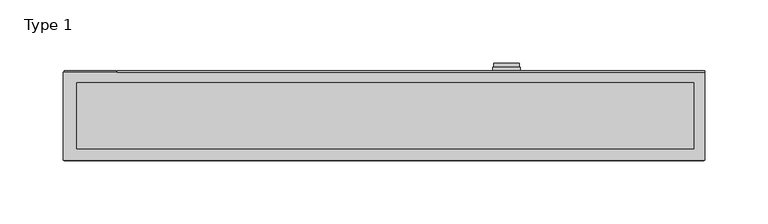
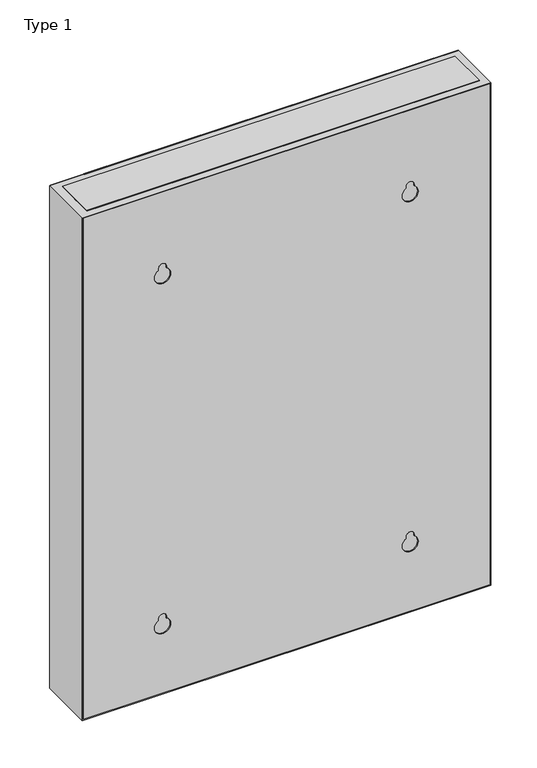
"""IFC4 building model written with IfcOpenShell, lengths in millimetres: proxy geometry, PDB-200 - 208V_OR_120V_Distribution_Panel_Wallmount_BIM_Model : Type 1."""

from ifc_helpers import new_model, si_unit, point, frame, frame_2d, origin, place, context, project, spatial, polyline, circle_curve, trimmed, segment, composite_curve, outline, extrude, source, transform, mapped, element, save


def type_1_044964e1(model_context):
    return source(origin(), model_context, "Body", "SweptSolid", [
        extrude(outline(polyline([(1661.8105, -253.0019074), (1003.7201708, -253.0019074), (1003.7201708, 253.0019074), (1661.8105, 253.0019074), (1661.8105, -253.0019074)]), holes=[composite_curve([segment(trimmed(circle_curve(frame_2d((1562.5846885, 154.050553)), 5.0), [point((1562.5846885, 149.050553))], [point((1562.5846885, 159.050553))], True, "CARTESIAN"), True, "CONTINUOUS"), segment(polyline([(1562.5846885, 159.050553), (1560.4927236, 159.050553)]), True, "CONTINUOUS"), segment(trimmed(circle_curve(frame_2d((1551.8324696, 154.050553)), 10.0), [point((1560.4927236, 159.050553))], [point((1560.4927236, 149.050553))], True, "CARTESIAN"), True, "CONTINUOUS"), segment(polyline([(1560.4927236, 149.050553), (1562.5846885, 149.050553)]), True, "CONTINUOUS")], self_intersect=False), composite_curve([segment(trimmed(circle_curve(frame_2d((1562.5846885, -153.949447)), 5.0), [point((1562.5846885, -158.949447))], [point((1562.5846885, -148.949447))], True, "CARTESIAN"), True, "CONTINUOUS"), segment(polyline([(1562.5846885, -148.949447), (1560.4927236, -148.949447)]), True, "CONTINUOUS"), segment(trimmed(circle_curve(frame_2d((1551.8324696, -153.949447)), 10.0), [point((1560.4927236, -148.949447))], [point((1560.4927236, -158.949447))], True, "CARTESIAN"), True, "CONTINUOUS"), segment(polyline([(1560.4927236, -158.949447), (1562.5846885, -158.949447)]), True, "CONTINUOUS")], self_intersect=False), composite_curve([segment(trimmed(circle_curve(frame_2d((1102.5846885, 154.050553)), 5.0), [point((1102.5846885, 149.050553))], [point((1102.5846885, 159.050553))], True, "CARTESIAN"), True, "CONTINUOUS"), segment(polyline([(1102.5846885, 159.050553), (1100.4927236, 159.050553)]), True, "CONTINUOUS"), segment(trimmed(circle_curve(frame_2d((1091.8324696, 154.050553)), 10.0), [point((1100.4927236, 159.050553))], [point((1100.4927236, 149.050553))], True, "CARTESIAN"), True, "CONTINUOUS"), segment(polyline([(1100.4927236, 149.050553), (1102.5846885, 149.050553)]), True, "CONTINUOUS")], self_intersect=False), composite_curve([segment(trimmed(circle_curve(frame_2d((1102.5846885, -153.949447)), 5.0), [point((1102.5846885, -158.949447))], [point((1102.5846885, -148.949447))], True, "CARTESIAN"), True, "CONTINUOUS"), segment(polyline([(1102.5846885, -148.949447), (1100.4927236, -148.949447)]), True, "CONTINUOUS"), segment(trimmed(circle_curve(frame_2d((1091.8324696, -153.949447)), 10.0), [point((1100.4927236, -148.949447))], [point((1100.4927236, -158.949447))], True, "CARTESIAN"), True, "CONTINUOUS"), segment(polyline([(1100.4927236, -158.949447), (1102.5846885, -158.949447)]), True, "CONTINUOUS")], self_intersect=False)]), frame((0.0, 289.0684672, 0.0), z_axis=(0.0, 1.0, 0.0), x_axis=(0.0, 0.0, 1.0)), (0.0, 0.0, 1.0), 0.9625754),
        extrude(outline(polyline([(245.1030134, 350.4500084), (245.1030134, 298.2536684), (-243.0019074, 298.2536684), (-243.0019074, 350.4500084), (245.1030134, 350.4500084)])), frame((0.0, 0.0, 1662.5846885), z_axis=(0.0, 0.0, 1.0), x_axis=(1.0, 0.0, 0.0)), (0.0, 0.0, 1.0), 1.0190412),
        extrude(outline(polyline([(245.1030134, 350.4500084), (245.1030134, 298.2536684), (-243.0019074, 298.2536684), (-243.0019074, 350.4500084), (245.1030134, 350.4500084)])), frame((0.0, 0.0, 1001.2301619), z_axis=(0.0, 0.0, 1.0), x_axis=(1.0, 0.0, 0.0)), (0.0, 0.0, 1.0), 1.3545267),
        extrude(outline(polyline([(1662.5846885, -211.0108438), (1002.5846885, -211.0108438), (1002.5846885, 254.050553), (1662.5846885, 254.050553), (1662.5846885, -211.0108438)]), holes=[polyline([(1580.351105, -164.6014451), (1580.351105, 175.3985549), (1090.6943454, 175.3985549), (1090.6943454, -164.6014451), (1580.351105, -164.6014451)])]), frame((0.0, 359.0682426, 0.0), z_axis=(0.0, 1.0, 0.0), x_axis=(0.0, 0.0, 1.0)), (0.0, 0.0, 1.0), 0.9317574),
        extrude(outline(polyline([(174.8985549, 359.0682426), (-164.1014451, 359.0682426), (-164.1014451, 360.0), (174.8985549, 360.0), (174.8985549, 359.0682426)])), frame((0.0, 0.0, 1091.1943454), z_axis=(0.0, 0.0, 1.0), x_axis=(1.0, 0.0, 0.0)), (0.0, 0.0, 1.0), 488.6567596),
        extrude(outline(polyline([(1662.5846885, -253.949447), (1002.5846885, -253.949447), (1002.5846885, 254.050553), (1662.5846885, 254.050553), (1662.5846885, -253.949447)]), holes=[polyline([(1661.8105, -253.0019074), (1661.8105, 253.0019074), (1003.7201708, 253.0019074), (1003.7201708, -253.0019074), (1661.8105, -253.0019074)])]), frame((0.0, 289.0684672, 0.0), z_axis=(0.0, 1.0, 0.0), x_axis=(0.0, 0.0, 1.0)), (0.0, 0.0, 1.0), 69.9997753),
        extrude(outline(polyline([(-212.0019074, 359.0682426), (-253.0019074, 359.0682426), (-253.0019074, 360.0), (-212.0019074, 360.0), (-212.0019074, 359.0682426)])), frame((0.0, 0.0, 1002.5846885), z_axis=(0.0, 0.0, 1.0), x_axis=(1.0, 0.0, 0.0)), (0.0, 0.0, 1.0), 660.0),
        extrude(outline(composite_curve([segment(trimmed(circle_curve(frame_2d((1355.1281656, 96.998748)), 10.0), [point((1355.1281656, 86.998748))], [point((1355.1281656, 106.998748))], False, "CARTESIAN"), True, "CONTINUOUS"), segment(trimmed(circle_curve(frame_2d((1355.1281656, 96.998748)), 10.0), [point((1355.1281656, 106.998748))], [point((1355.1281656, 86.998748))], False, "CARTESIAN"), True, "CONTINUOUS")], self_intersect=False), holes=[polyline([(1362.2099321, 95.0693114), (1362.2099321, 98.854378), (1347.2099321, 98.854378), (1347.2099321, 95.0693114), (1362.2099321, 95.0693114)])]), frame((0.0, 363.0557159, 0.0), z_axis=(0.0, 1.0, 0.0), x_axis=(0.0, 0.0, 1.0)), (0.0, 0.0, 1.0), 3.0401587),
        extrude(outline(polyline([(107.9737314, 363.0557159), (107.9737314, 360.0), (85.9737314, 360.0), (85.9737314, 363.0557159), (107.9737314, 363.0557159)])), frame((0.0, 0.0, 1290.0770102), z_axis=(0.0, 0.0, 1.0), x_axis=(1.0, 0.0, 0.0)), (0.0, 0.0, 1.0), 84.5076783),
    ])


if __name__ == "__main__":
    model = new_model("IFC4")
    model_context = context("Model", 3, world=origin())
    ifc_project = project(units=[si_unit("LENGTHUNIT", "METRE", prefix="MILLI")], contexts=[model_context])
    site = spatial("IfcSite", under=ifc_project)
    building = spatial("IfcBuilding", under=site)
    placement = place(None, origin())
    type_1_shape = type_1_044964e1(model_context)
    element("IfcBuildingElementProxy", 1, Name="PDB-200 - 208V_OR_120V_Distribution_Panel_Wallmount_BIM_Model : Type 1", ObjectType="PDB-200 - 208V_OR_120V_Distribution_Panel_Wallmount_BIM_Model : Type 1", at=placement, inside=building, context=model_context, shape_type="MappedRepresentation", body=[
        mapped(type_1_shape, transform((0.0, 0.0, 0.0), x_axis=(1.0, 0.0, 0.0), y_axis=(0.0, 1.0, 0.0), z_axis=(0.0, 0.0, 1.0))),
    ])
    save(model, "model.ifc")
